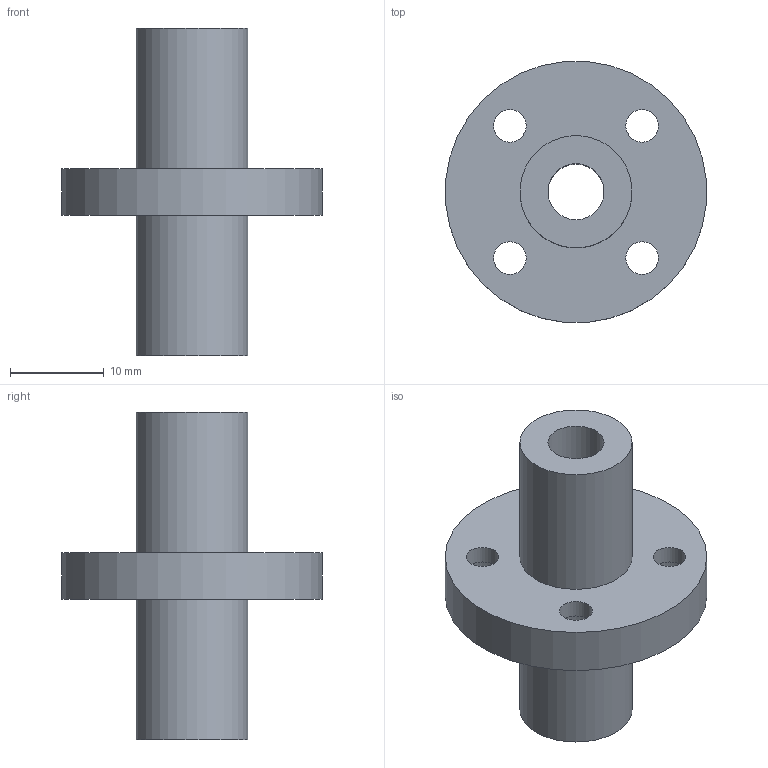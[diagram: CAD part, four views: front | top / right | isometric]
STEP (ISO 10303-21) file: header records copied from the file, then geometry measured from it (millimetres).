
FILE_DESCRIPTION(/* description */ (''),/* implementation_level */ '2;1');
FILE_NAME(/* name */ 'LMFM6LUU',/* time_stamp */ '2019-07-03T11:01:40+02:00',/* author */ ('VĂ©gh MĂˇtĂ©'),/* organization */ ('Bearing Kft'),/* preprocessor_version */ 'ST-DEVELOPER v16.7',/* originating_system */ 'DEX',/* authorisation */ $);
FILE_SCHEMA (('AUTOMOTIVE_DESIGN {1 0 10303 214 3 1 1}'));
Length unit declared in the file: millimetre
Products named in the file (1): LMFM6LUU
Bounding box: 27.89 x 27.89 x 35 mm (x, y, z)
Volume: 5058 mm3; surface area: 3654 mm2
Topology: 1 solids, 1 shells, 339 faces, 856 edges, 572 vertices
Faces by surface type: plane 261, bspline 64, cylinder 14
Full cylindrical faces by diameter (mm): 3.5 x4, 6 x5, 12 x2, 28 x1
Entity records: 12324 total; most frequent: CARTESIAN_POINT 4584, ORIENTED_EDGE 1676, DIRECTION 1290, EDGE_CURVE 838, LINE 682, VECTOR 682, VERTEX_POINT 568, EDGE_LOOP 416
